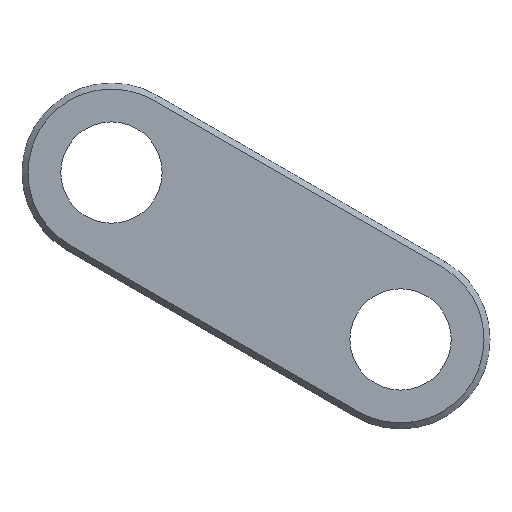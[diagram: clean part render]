
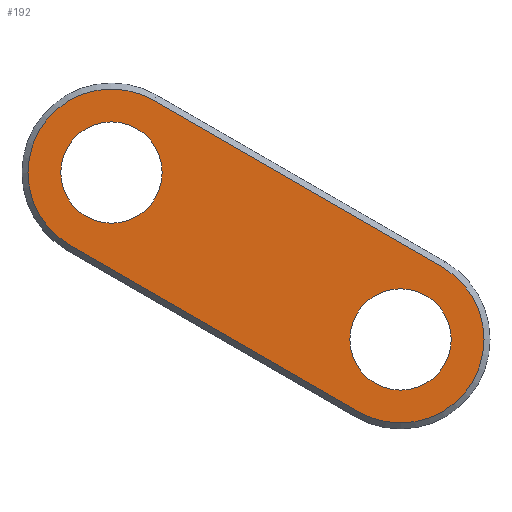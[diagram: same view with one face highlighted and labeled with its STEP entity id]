
A CAD part, left-side view. The second image highlights one B-rep face of the part: STEP entity #192.
In plain terms, the highlighted planar face has unit normal (-1, 0, 0).
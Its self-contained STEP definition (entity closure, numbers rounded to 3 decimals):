
#54=AXIS2_PLACEMENT_3D('Circle Axis2P3D',#52,#53,$) ;
#78=AXIS2_PLACEMENT_3D('Circle Axis2P3D',#76,#77,$) ;
#111=AXIS2_PLACEMENT_3D('Circle Axis2P3D',#109,#110,$) ;
#135=AXIS2_PLACEMENT_3D('Circle Axis2P3D',#133,#134,$) ;
#148=AXIS2_PLACEMENT_3D('Plane Axis2P3D',#145,#146,#147) ;
#152=AXIS2_PLACEMENT_3D('Circle Axis2P3D',#150,#151,$) ;
#168=AXIS2_PLACEMENT_3D('Circle Axis2P3D',#166,#167,$) ;
#49=CARTESIAN_POINT('Vertex',(34745.7,1684.038,2285.088)) ;
#52=CARTESIAN_POINT('Axis2P3D Location',(34745.7,1675.538,2285.088)) ;
#56=CARTESIAN_POINT('Vertex',(34745.7,1667.038,2285.088)) ;
#76=CARTESIAN_POINT('Axis2P3D Location',(34745.7,1675.538,2285.088)) ;
#106=CARTESIAN_POINT('Vertex',(34745.7,1732.488,2313.061)) ;
#109=CARTESIAN_POINT('Axis2P3D Location',(34745.7,1723.988,2313.061)) ;
#113=CARTESIAN_POINT('Vertex',(34745.7,1715.488,2313.061)) ;
#133=CARTESIAN_POINT('Axis2P3D Location',(34745.7,1723.988,2313.061)) ;
#145=CARTESIAN_POINT('Axis2P3D Location',(34745.7,1675.538,2285.088)) ;
#150=CARTESIAN_POINT('Axis2P3D Location',(34745.7,1723.988,2313.061)) ;
#154=CARTESIAN_POINT('Vertex',(34745.7,1730.988,2300.937)) ;
#156=CARTESIAN_POINT('Vertex',(34745.7,1716.988,2325.185)) ;
#159=CARTESIAN_POINT('Line Origine',(34745.7,1706.763,2286.95)) ;
#163=CARTESIAN_POINT('Vertex',(34745.7,1682.538,2272.964)) ;
#166=CARTESIAN_POINT('Axis2P3D Location',(34745.7,1675.538,2285.088)) ;
#170=CARTESIAN_POINT('Vertex',(34745.7,1668.538,2297.213)) ;
#173=CARTESIAN_POINT('Line Origine',(34745.7,1692.763,2311.199)) ;
#53=DIRECTION('Axis2P3D Direction',(1.,-0.,0.)) ;
#77=DIRECTION('Axis2P3D Direction',(1.,-0.,0.)) ;
#110=DIRECTION('Axis2P3D Direction',(1.,-0.,0.)) ;
#134=DIRECTION('Axis2P3D Direction',(1.,-0.,0.)) ;
#146=DIRECTION('Axis2P3D Direction',(1.,0.,0.)) ;
#147=DIRECTION('Axis2P3D XDirection',(0.,1.,0.)) ;
#151=DIRECTION('Axis2P3D Direction',(1.,0.,0.)) ;
#160=DIRECTION('Vector Direction',(0.,-0.866,-0.5)) ;
#167=DIRECTION('Axis2P3D Direction',(1.,0.,0.)) ;
#174=DIRECTION('Vector Direction',(0.,0.866,0.5)) ;
#161=VECTOR('Line Direction',#160,1.) ;
#175=VECTOR('Line Direction',#174,1.) ;
#179=ORIENTED_EDGE('',*,*,#158,.F.) ;
#180=ORIENTED_EDGE('',*,*,#165,.F.) ;
#181=ORIENTED_EDGE('',*,*,#172,.F.) ;
#182=ORIENTED_EDGE('',*,*,#177,.F.) ;
#185=ORIENTED_EDGE('',*,*,#80,.T.) ;
#186=ORIENTED_EDGE('',*,*,#58,.T.) ;
#189=ORIENTED_EDGE('',*,*,#137,.T.) ;
#190=ORIENTED_EDGE('',*,*,#115,.T.) ;
#187=FACE_BOUND('',#184,.T.) ;
#191=FACE_BOUND('',#188,.T.) ;
#192=ADVANCED_FACE('V.9626.7522.810.051-01 - \X2\041704320435043D043E\X0\',(#183,#187,#191),#149,.F.) ;
#55=CIRCLE('generated circle',#54,8.5) ;
#79=CIRCLE('generated circle',#78,8.5) ;
#112=CIRCLE('generated circle',#111,8.5) ;
#136=CIRCLE('generated circle',#135,8.5) ;
#153=CIRCLE('generated circle',#152,14.) ;
#169=CIRCLE('generated circle',#168,14.) ;
#58=EDGE_CURVE('',#57,#50,#55,.T.) ;
#80=EDGE_CURVE('',#50,#57,#79,.T.) ;
#115=EDGE_CURVE('',#114,#107,#112,.T.) ;
#137=EDGE_CURVE('',#107,#114,#136,.T.) ;
#158=EDGE_CURVE('',#155,#157,#153,.T.) ;
#165=EDGE_CURVE('',#164,#155,#162,.F.) ;
#172=EDGE_CURVE('',#171,#164,#169,.T.) ;
#177=EDGE_CURVE('',#157,#171,#176,.F.) ;
#178=EDGE_LOOP('',(#179,#180,#181,#182)) ;
#184=EDGE_LOOP('',(#185,#186)) ;
#188=EDGE_LOOP('',(#189,#190)) ;
#183=FACE_OUTER_BOUND('',#178,.T.) ;
#162=LINE('Line',#159,#161) ;
#176=LINE('Line',#173,#175) ;
#149=PLANE('',#148) ;
#50=VERTEX_POINT('',#49) ;
#57=VERTEX_POINT('',#56) ;
#107=VERTEX_POINT('',#106) ;
#114=VERTEX_POINT('',#113) ;
#155=VERTEX_POINT('',#154) ;
#157=VERTEX_POINT('',#156) ;
#164=VERTEX_POINT('',#163) ;
#171=VERTEX_POINT('',#170) ;
